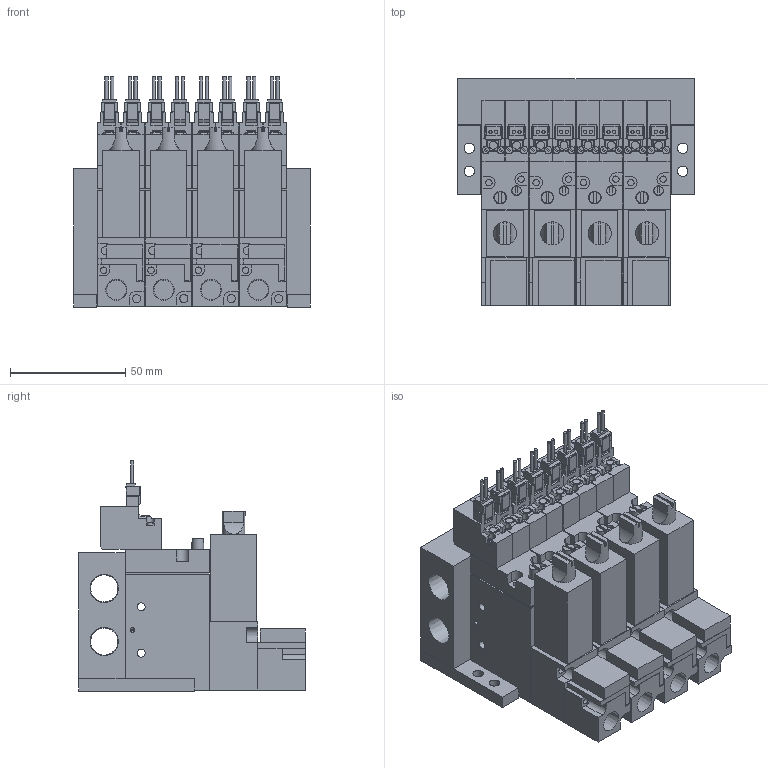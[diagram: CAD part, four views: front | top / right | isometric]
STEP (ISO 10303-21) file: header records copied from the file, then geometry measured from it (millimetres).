
FILE_DESCRIPTION(('STEP AP203'),'1');
FILE_NAME('BMPV32M2NZ25BL404.stp','2025-06-17T01:46:56',(' '),(' '),'Spatial InterOp 3D',' ',' ');
FILE_SCHEMA(('CONFIG_CONTROL_DESIGN'));
Length unit declared in the file: millimetre
Products named in the file (52): BMPV32M2NZ25BL404; S____; ___ ___2; ___-2(Rc); Filter Assy; __; _____; MB BRACKET; MB04; ___; upper plate-A; ______; ____; VACUUM VALVE FUNCTION MPV42-A
Assembly tree (51 placements, depth 2):
  BMPV32M2NZ25BL404
    S____
    ___ ___2
    ___-2(Rc)
    Filter Assy
    __
    _____
    S____
    ___ ___2
    ___-2(Rc)
    Filter Assy
    __
    _____
    S____
    ___ ___2
    ___-2(Rc)
    Filter Assy
    __
    _____
    MB BRACKET
    MB BRACKET
    MB04
    S____
    ___ ___2
    ___-2(Rc)
    Filter Assy
    __
    _____
    ___
    upper plate-A
    ______
    ____
    VACUUM VALVE FUNCTION MPV42-A
    VACUUM VALVE FUNCTION MPV42-A
    ___
    upper plate-A
    ______
    ____
    VACUUM VALVE FUNCTION MPV42-A
    VACUUM VALVE FUNCTION MPV42-A
    ___
    upper plate-A
    ______
    ____
    VACUUM VALVE FUNCTION MPV42-A
    VACUUM VALVE FUNCTION MPV42-A
    ___
    upper plate-A
    ______
    ____
    VACUUM VALVE FUNCTION MPV42-A
    VACUUM VALVE FUNCTION MPV42-A
Bounding box: 102.5 x 98 x 99.75 mm (x, y, z)
Volume: 433748.7 mm3; surface area: 148922.3 mm2
Topology: 51 solids, 51 shells, 1403 faces, 3680 edges, 2448 vertices
Faces by surface type: plane 1133, cylinder 238, cone 32
Full cylindrical faces by diameter (mm): 1.4 x16, 1.8 x8, 2 x8, 2.5 x12, 2.8 x16, 3 x16, 3.5 x44, 4 x4, 4.2 x4, 4.5 x4, 5 x4, 5.5 x4, 6.5 x6, 8.522 x4, 11.776 x2
Entity records: 44434 total; most frequent: CARTESIAN_POINT 7563, DIRECTION 6934, ORIENTED_EDGE 6832, EDGE_CURVE 3416, LINE 2776, VECTOR 2776, VERTEX_POINT 2396, AXIS2_PLACEMENT_3D 2079
